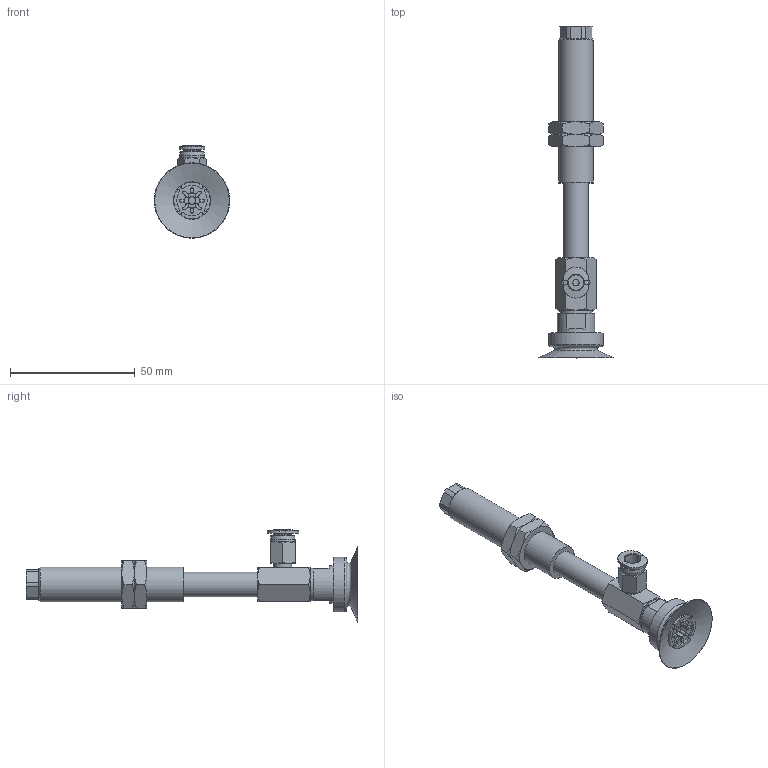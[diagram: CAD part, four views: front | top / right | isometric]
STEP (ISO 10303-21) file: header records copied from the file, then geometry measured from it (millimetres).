
FILE_DESCRIPTION(('STEP AP203'),'1');
FILE_NAME('-O.stp','2025-02-28T06:02:38',(' '),(' '),'Spatial InterOp 3D',' ',' ');
FILE_SCHEMA(('CONFIG_CONTROL_DESIGN'));
Length unit declared in the file: millimetre
Products named in the file (7): BNABPAYS-30-30-※-O; NAPAYS-30B-30--M; NAPAYS-30B-30--F; Nut-25-S; CONNECTOR-30B-30-PA; PC-C_06-M5; BPAG-30-※
Assembly tree (7 placements, depth 2):
  BNABPAYS-30-30-※-O
    NAPAYS-30B-30--M
    NAPAYS-30B-30--F
    Nut-25-S  x2
    CONNECTOR-30B-30-PA
    PC-C_06-M5
    BPAG-30-※
Bounding box: 30.3 x 133.2 x 37.13 mm (x, y, z)
Volume: 20437.3 mm3; surface area: 16197.4 mm2
Topology: 6 solids, 9 shells, 249 faces, 556 edges, 347 vertices
Faces by surface type: plane 104, cone 67, cylinder 67, bspline 4, torus 4, revolution 3
Full cylindrical faces by diameter (mm): 3 x2, 4 x2, 4.134 x2, 4.6 x1, 4.917 x1, 5 x2, 6 x1, 7 x1, 7.4 x1, 8.2 x1, 10 x3, 12.917 x2, 13 x1, 14 x1, 15 x1, 22 x1
Entity records: 6944 total; most frequent: CARTESIAN_POINT 1752, DIRECTION 1037, ORIENTED_EDGE 918, EDGE_CURVE 461, AXIS2_PLACEMENT_3D 428, VERTEX_POINT 315, EDGE_LOOP 304, CIRCLE 202
